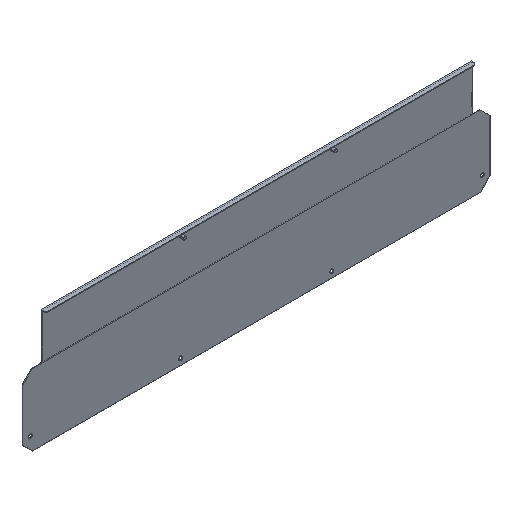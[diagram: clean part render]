
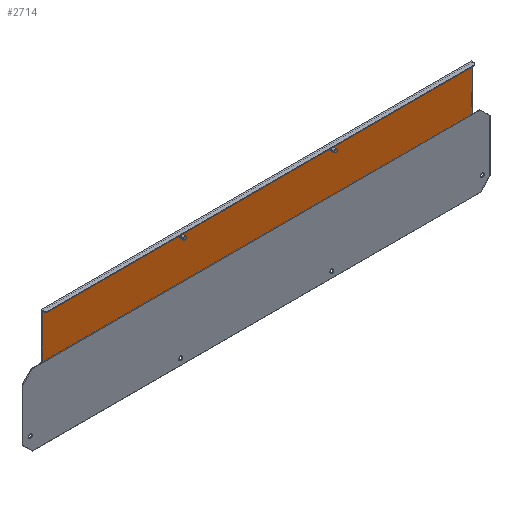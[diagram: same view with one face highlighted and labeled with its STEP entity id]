
A CAD part, isometric view. The second image highlights one B-rep face of the part: STEP entity #2714.
In plain terms, the highlighted planar face has unit normal (0, -1, 0).
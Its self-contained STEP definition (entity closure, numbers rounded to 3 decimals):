
#9 = VERTEX_POINT ( 'NONE', #2127 ) ;
#26 = AXIS2_PLACEMENT_3D ( 'NONE', #867, #1628, #2929 ) ;
#59 = CARTESIAN_POINT ( 'NONE',  ( 42., 152.5, 78. ) ) ;
#70 = EDGE_LOOP ( 'NONE', ( #2278, #483 ) ) ;
#103 = VERTEX_POINT ( 'NONE', #617 ) ;
#139 = VERTEX_POINT ( 'NONE', #1860 ) ;
#175 = LINE ( 'NONE', #2955, #980 ) ;
#224 = EDGE_CURVE ( 'NONE', #103, #1861, #986, .T. ) ;
#230 = EDGE_CURVE ( 'NONE', #2580, #2075, #3029, .T. ) ;
#231 = VERTEX_POINT ( 'NONE', #2715 ) ;
#301 = CARTESIAN_POINT ( 'NONE',  ( 0., 152.5, 0.293 ) ) ;
#305 = DIRECTION ( 'NONE',  ( 0., 0., 1. ) ) ;
#310 = LINE ( 'NONE', #3117, #2860 ) ;
#375 = EDGE_CURVE ( 'NONE', #231, #2896, #310, .T. ) ;
#382 = DIRECTION ( 'NONE',  ( 0., -1., 0. ) ) ;
#435 = ORIENTED_EDGE ( 'NONE', *, *, #2535, .F. ) ;
#483 = ORIENTED_EDGE ( 'NONE', *, *, #2296, .F. ) ;
#556 = ORIENTED_EDGE ( 'NONE', *, *, #230, .T. ) ;
#577 = DIRECTION ( 'NONE',  ( 1., 0., 0. ) ) ;
#617 = CARTESIAN_POINT ( 'NONE',  ( -239.247, 152.5, 76.809 ) ) ;
#621 = LINE ( 'NONE', #2659, #659 ) ;
#659 = VECTOR ( 'NONE', #1645, 1000. ) ;
#672 = DIRECTION ( 'NONE',  ( 0., 0., -1. ) ) ;
#673 = AXIS2_PLACEMENT_3D ( 'NONE', #59, #1596, #3078 ) ;
#714 = VECTOR ( 'NONE', #1379, 1000. ) ;
#725 = EDGE_CURVE ( 'NONE', #2668, #139, #1003, .T. ) ;
#755 = EDGE_CURVE ( 'NONE', #9, #1573, #3130, .T. ) ;
#849 = ORIENTED_EDGE ( 'NONE', *, *, #725, .F. ) ;
#854 = LINE ( 'NONE', #2508, #2364 ) ;
#867 = CARTESIAN_POINT ( 'NONE',  ( 42., 152.5, 78. ) ) ;
#925 = AXIS2_PLACEMENT_3D ( 'NONE', #2281, #2334, #305 ) ;
#932 = EDGE_LOOP ( 'NONE', ( #1516, #435 ) ) ;
#944 = ORIENTED_EDGE ( 'NONE', *, *, #375, .T. ) ;
#954 = EDGE_CURVE ( 'NONE', #2279, #231, #854, .T. ) ;
#966 = CARTESIAN_POINT ( 'NONE',  ( -504.75, 152.5, 4.036 ) ) ;
#980 = VECTOR ( 'NONE', #2502, 1000. ) ;
#986 = CIRCLE ( 'NONE', #3014, 3. ) ;
#1003 = LINE ( 'NONE', #1559, #2119 ) ;
#1047 = CARTESIAN_POINT ( 'NONE',  ( 45., 152.5, 77.995 ) ) ;
#1157 = LINE ( 'NONE', #2182, #714 ) ;
#1183 = ORIENTED_EDGE ( 'NONE', *, *, #2760, .F. ) ;
#1198 = VECTOR ( 'NONE', #1938, 1000. ) ;
#1290 = DIRECTION ( 'NONE',  ( 0., 0., 1. ) ) ;
#1379 = DIRECTION ( 'NONE',  ( 0., 0., 1. ) ) ;
#1405 = CARTESIAN_POINT ( 'NONE',  ( 304.75, 152.5, 87. ) ) ;
#1501 = LINE ( 'NONE', #2345, #3059 ) ;
#1502 = ORIENTED_EDGE ( 'NONE', *, *, #3010, .T. ) ;
#1510 = DIRECTION ( 'NONE',  ( 0., 0., 1. ) ) ;
#1516 = ORIENTED_EDGE ( 'NONE', *, *, #755, .F. ) ;
#1559 = CARTESIAN_POINT ( 'NONE',  ( -504.75, 152.5, 0.293 ) ) ;
#1573 = VERTEX_POINT ( 'NONE', #1047 ) ;
#1596 = DIRECTION ( 'NONE',  ( 0., -1., 0. ) ) ;
#1628 = DIRECTION ( 'NONE',  ( 0., -1., 0. ) ) ;
#1645 = DIRECTION ( 'NONE',  ( -1., 0., 0. ) ) ;
#1681 = CIRCLE ( 'NONE', #26, 3. ) ;
#1766 = DIRECTION ( 'NONE',  ( 0., 0., -1. ) ) ;
#1788 = DIRECTION ( 'NONE',  ( 0., 1., 0. ) ) ;
#1801 = CARTESIAN_POINT ( 'NONE',  ( 304.75, 152.5, 4.036 ) ) ;
#1820 = FACE_OUTER_BOUND ( 'NONE', #3099, .T. ) ;
#1860 = CARTESIAN_POINT ( 'NONE',  ( -504.75, 152.5, 88. ) ) ;
#1861 = VERTEX_POINT ( 'NONE', #2986 ) ;
#1938 = DIRECTION ( 'NONE',  ( 0., 0., 1. ) ) ;
#2073 = DIRECTION ( 'NONE',  ( 0., 0., -1. ) ) ;
#2075 = VERTEX_POINT ( 'NONE', #2200 ) ;
#2105 = ORIENTED_EDGE ( 'NONE', *, *, #2499, .T. ) ;
#2119 = VECTOR ( 'NONE', #1290, 1000. ) ;
#2127 = CARTESIAN_POINT ( 'NONE',  ( 39., 152.5, 78.005 ) ) ;
#2168 = ORIENTED_EDGE ( 'NONE', *, *, #954, .T. ) ;
#2182 = CARTESIAN_POINT ( 'NONE',  ( 304.75, 152.5, 0.293 ) ) ;
#2200 = CARTESIAN_POINT ( 'NONE',  ( 304.75, 152.5, 88. ) ) ;
#2278 = ORIENTED_EDGE ( 'NONE', *, *, #224, .F. ) ;
#2279 = VERTEX_POINT ( 'NONE', #966 ) ;
#2281 = CARTESIAN_POINT ( 'NONE',  ( -242., 152.5, 78. ) ) ;
#2290 = FACE_BOUND ( 'NONE', #70, .T. ) ;
#2296 = EDGE_CURVE ( 'NONE', #1861, #103, #2373, .T. ) ;
#2334 = DIRECTION ( 'NONE',  ( 0., -1., 0. ) ) ;
#2345 = CARTESIAN_POINT ( 'NONE',  ( 304.75, 152.5, 0.293 ) ) ;
#2364 = VECTOR ( 'NONE', #672, 1000. ) ;
#2373 = CIRCLE ( 'NONE', #925, 3. ) ;
#2457 = EDGE_CURVE ( 'NONE', #2075, #139, #621, .T. ) ;
#2471 = CARTESIAN_POINT ( 'NONE',  ( -504.75, 152.5, 87. ) ) ;
#2499 = EDGE_CURVE ( 'NONE', #3090, #2580, #1157, .T. ) ;
#2502 = DIRECTION ( 'NONE',  ( 0., 0., -1. ) ) ;
#2508 = CARTESIAN_POINT ( 'NONE',  ( -504.75, 152.5, 4.036 ) ) ;
#2535 = EDGE_CURVE ( 'NONE', #1573, #9, #1681, .T. ) ;
#2580 = VERTEX_POINT ( 'NONE', #3020 ) ;
#2659 = CARTESIAN_POINT ( 'NONE',  ( 0., 152.5, 88. ) ) ;
#2668 = VERTEX_POINT ( 'NONE', #2471 ) ;
#2714 = ADVANCED_FACE ( 'NONE', ( #2816, #2290, #1820 ), #2765, .F. ) ;
#2715 = CARTESIAN_POINT ( 'NONE',  ( -504.75, 152.5, 3. ) ) ;
#2760 = EDGE_CURVE ( 'NONE', #3090, #2896, #1501, .T. ) ;
#2765 = PLANE ( 'NONE',  #3226 ) ;
#2767 = ORIENTED_EDGE ( 'NONE', *, *, #2457, .T. ) ;
#2816 = FACE_BOUND ( 'NONE', #932, .T. ) ;
#2860 = VECTOR ( 'NONE', #577, 1000. ) ;
#2888 = CARTESIAN_POINT ( 'NONE',  ( 304.75, 152.5, 3. ) ) ;
#2896 = VERTEX_POINT ( 'NONE', #2888 ) ;
#2929 = DIRECTION ( 'NONE',  ( 0., 0., 1. ) ) ;
#2955 = CARTESIAN_POINT ( 'NONE',  ( -504.75, 152.5, 0.293 ) ) ;
#2986 = CARTESIAN_POINT ( 'NONE',  ( -244.753, 152.5, 79.191 ) ) ;
#3010 = EDGE_CURVE ( 'NONE', #2668, #2279, #175, .T. ) ;
#3014 = AXIS2_PLACEMENT_3D ( 'NONE', #3295, #382, #1510 ) ;
#3020 = CARTESIAN_POINT ( 'NONE',  ( 304.75, 152.5, 87. ) ) ;
#3029 = LINE ( 'NONE', #1405, #1198 ) ;
#3059 = VECTOR ( 'NONE', #1766, 1000. ) ;
#3078 = DIRECTION ( 'NONE',  ( 0., 0., 1. ) ) ;
#3090 = VERTEX_POINT ( 'NONE', #1801 ) ;
#3099 = EDGE_LOOP ( 'NONE', ( #1502, #2168, #944, #1183, #2105, #556, #2767, #849 ) ) ;
#3117 = CARTESIAN_POINT ( 'NONE',  ( 0., 152.5, 3. ) ) ;
#3130 = CIRCLE ( 'NONE', #673, 3. ) ;
#3226 = AXIS2_PLACEMENT_3D ( 'NONE', #301, #1788, #2073 ) ;
#3295 = CARTESIAN_POINT ( 'NONE',  ( -242., 152.5, 78. ) ) ;
